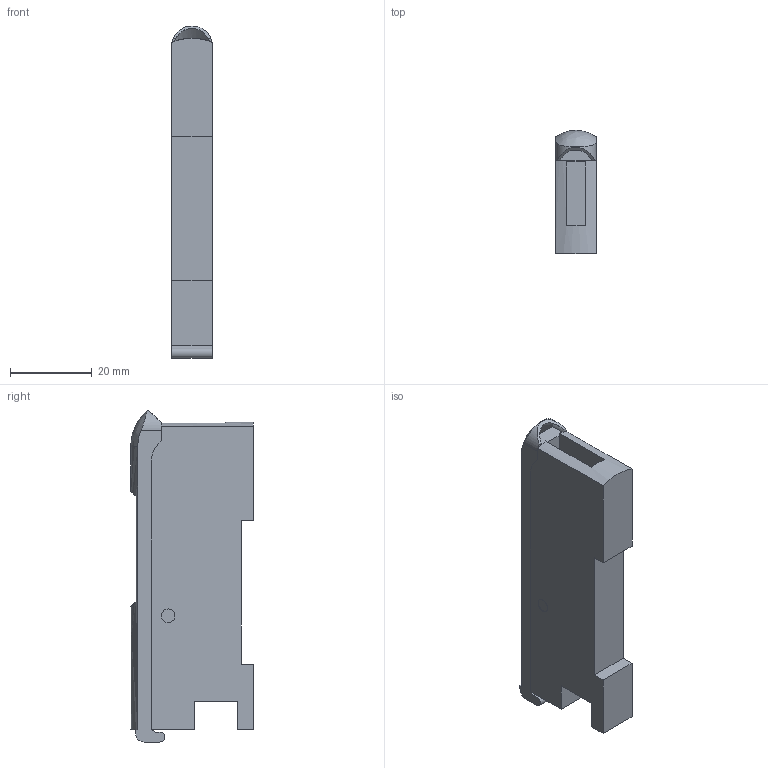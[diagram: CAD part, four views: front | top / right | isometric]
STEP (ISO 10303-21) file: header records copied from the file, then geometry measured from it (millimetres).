
FILE_DESCRIPTION (( 'STEP AP203' ), '1' );
FILE_NAME ('LS-401.STEP', '2005-11-09T06:50:53', ( '' ), ( '' ), 'SwSTEP 2.0', 'SolidWorks 2004073', '' );
FILE_SCHEMA (( 'CONFIG_CONTROL_DESIGN' ));
Length unit declared in the file: millimetre
Products named in the file (1): LS-401
Bounding box: 10 x 30 x 81 mm (x, y, z)
Volume: 17801.8 mm3; surface area: 9156 mm2
Topology: 2 solids, 2 shells, 166 faces, 424 edges, 282 vertices
Faces by surface type: plane 133, cylinder 29, bspline 4
Entity records: 5394 total; most frequent: CARTESIAN_POINT 1255, ORIENTED_EDGE 848, DIRECTION 804, EDGE_CURVE 424, VECTOR 346, LINE 346, VERTEX_POINT 282, AXIS2_PLACEMENT_3D 229
